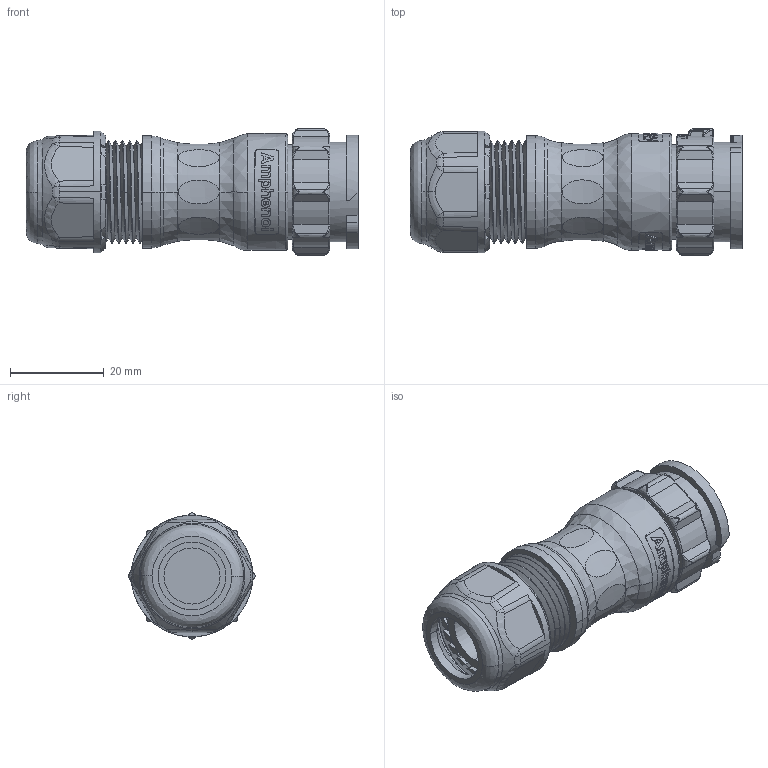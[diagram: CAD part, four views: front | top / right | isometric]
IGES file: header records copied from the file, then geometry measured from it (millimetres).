
Start section:  PTC IGES file: DD-12BMFA-QL8MN0-IGS.igs
Global section: file name: DD-12BMFA-QL8MN0-IGS.igs; native system: Creo Parametric by Parametric Technology Corporation; preprocessor: 2017170; author: L210038; organization: Unknown; date: 20211026.181058; units: millimetre
Bounding box: 70.9 x 27 x 27 mm (x, y, z)
Volume: 20743.6 mm3; surface area: 13756.7 mm2
Topology: 1 solids, 1 shells, 1019 faces, 2787 edges, 1800 vertices
Faces by surface type: bspline 523, revolution 396, extrusion 100
